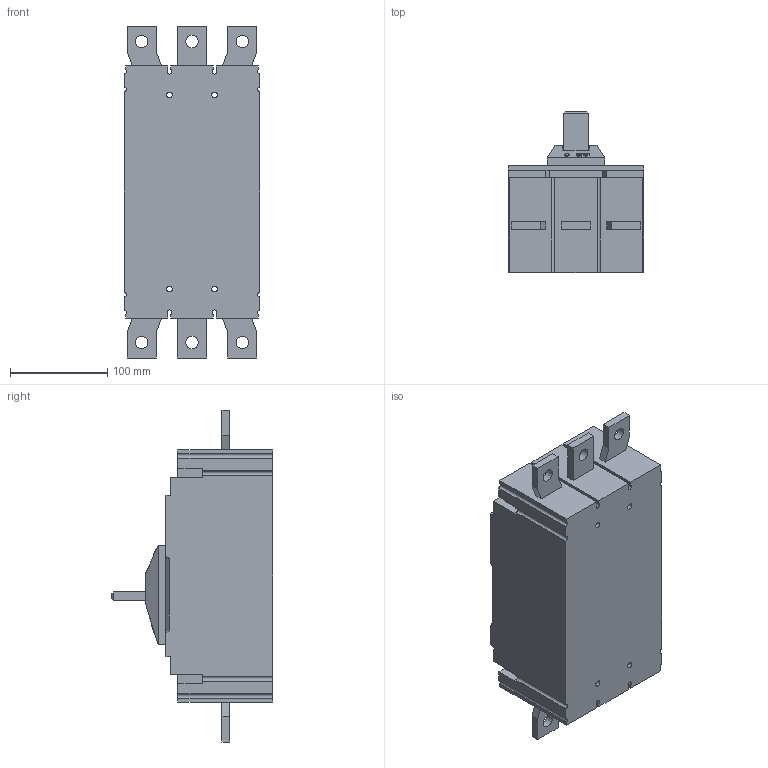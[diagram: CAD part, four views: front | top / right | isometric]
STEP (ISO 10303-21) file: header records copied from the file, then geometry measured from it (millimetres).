
FILE_DESCRIPTION(/* description */ ('','CAx-IF Rec.Pracs.---Representation and Presentation of Product Manufacturing Information (PMI)---3.8---2014-02-18'),/* implementation_level */ '2;1');
FILE_NAME(/* name */ 'E:\3D model\41-susol-mccb-630af-iec-2p3p.stp',/* time_stamp */ '2017-11-09T14:52:38+03:00',/* author */ ('dobrin'),/* organization */ (''),/* preprocessor_version */ 'ST-DEVELOPER v16.13',/* originating_system */ 'Autodesk Inventor 2018',/* authorisation */ '');
FILE_SCHEMA (('AP242_MANAGED_MODEL_BASED_3D_ENGINEERING_MIM_LF { 1 0 10303 442 1 1 4 }'));
Length unit declared in the file: metre
Products named in the file (1): 41-susol-mccb-630af-iec-2p3p
Bounding box: 140 x 166 x 342 mm (x, y, z)
Volume: 3962378.2 mm3; surface area: 205266 mm2
Topology: 1 solids, 1 shells, 355 faces, 945 edges, 626 vertices
Faces by surface type: plane 298, cylinder 49, cone 5, torus 3
Full cylindrical faces by diameter (mm): 5 x5, 6 x4, 11.4 x6, 13 x6, 18.6 x6
Entity records: 10864 total; most frequent: CARTESIAN_POINT 1905, ORIENTED_EDGE 1808, DIRECTION 1760, EDGE_CURVE 904, LINE 794, VECTOR 794, VERTEX_POINT 620, AXIS2_PLACEMENT_3D 487
